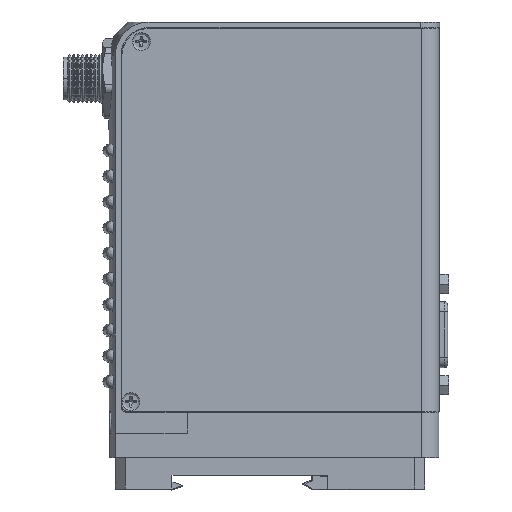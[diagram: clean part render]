
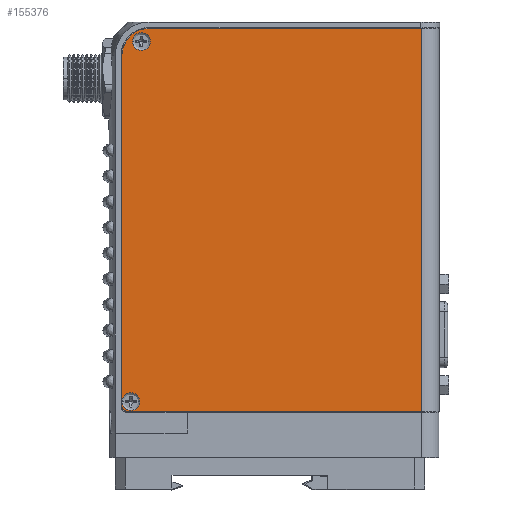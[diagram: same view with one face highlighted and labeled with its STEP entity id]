
A CAD part, top view. The second image highlights one B-rep face of the part: STEP entity #155376.
In plain terms, the highlighted planar face has unit normal (0, 0, 1).
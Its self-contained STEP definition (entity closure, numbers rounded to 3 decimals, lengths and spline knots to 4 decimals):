
#1732 = VERTEX_POINT ( 'NONE', #5637 ) ;
#2185 = LINE ( 'NONE', #16161, #8936 ) ;
#2464 = VECTOR ( 'NONE', #139410, 39.3701 ) ;
#2855 = CARTESIAN_POINT ( 'NONE',  ( -0.0286, 1.931, 3.3427 ) ) ;
#5637 = CARTESIAN_POINT ( 'NONE',  ( 0.0734, 5.435, 3.3427 ) ) ;
#7198 = CARTESIAN_POINT ( 'NONE',  ( 0.1594, 5.435, 3.3427 ) ) ;
#8936 = VECTOR ( 'NONE', #33150, 39.3701 ) ;
#9784 = VERTEX_POINT ( 'NONE', #16976 ) ;
#10167 = EDGE_CURVE ( 'NONE', #51545, #85257, #150644, .T. ) ;
#10926 = LINE ( 'NONE', #149278, #2464 ) ;
#14154 = DIRECTION ( 'NONE',  ( 1., 0., 0. ) ) ;
#16161 = CARTESIAN_POINT ( 'NONE',  ( 2.8884, 1.833, 3.3427 ) ) ;
#16976 = CARTESIAN_POINT ( 'NONE',  ( 0.2454, 5.435, 3.3427 ) ) ;
#17078 = CARTESIAN_POINT ( 'NONE',  ( 0.2394, 5.294, 3.3427 ) ) ;
#19611 = CARTESIAN_POINT ( 'NONE',  ( 0.0574, 1.931, 3.3427 ) ) ;
#19730 = VECTOR ( 'NONE', #23459, 39.3701 ) ;
#21459 = VERTEX_POINT ( 'NONE', #88129 ) ;
#21917 = VERTEX_POINT ( 'NONE', #135888 ) ;
#22211 = DIRECTION ( 'NONE',  ( 0., 0., -1. ) ) ;
#23459 = DIRECTION ( 'NONE',  ( 0., 1., 0. ) ) ;
#25420 = CARTESIAN_POINT ( 'NONE',  ( 0.0324, 1.833, 3.3427 ) ) ;
#26514 = CARTESIAN_POINT ( 'NONE',  ( 0.1594, 5.435, 3.3427 ) ) ;
#32711 = AXIS2_PLACEMENT_3D ( 'NONE', #96378, #22211, #145018 ) ;
#32735 = ORIENTED_EDGE ( 'NONE', *, *, #84903, .F. ) ;
#33150 = DIRECTION ( 'NONE',  ( 0., -1., 0. ) ) ;
#33704 = CIRCLE ( 'NONE', #152145, 0.086 ) ;
#35460 = EDGE_LOOP ( 'NONE', ( #156555, #51926, #70823, #88425, #32735, #47751 ) ) ;
#38532 = DIRECTION ( 'NONE',  ( 0., 0., -1. ) ) ;
#39082 = CIRCLE ( 'NONE', #99488, 0.086 ) ;
#40745 = CARTESIAN_POINT ( 'NONE',  ( -0.0306, 5.294, 3.3427 ) ) ;
#40951 = AXIS2_PLACEMENT_3D ( 'NONE', #76227, #114896, #154403 ) ;
#45178 = DIRECTION ( 'NONE',  ( 0., 0., -1. ) ) ;
#46314 = CIRCLE ( 'NONE', #138400, 0.086 ) ;
#46567 = LINE ( 'NONE', #48992, #19730 ) ;
#47497 = DIRECTION ( 'NONE',  ( 0., 0., -1. ) ) ;
#47751 = ORIENTED_EDGE ( 'NONE', *, *, #52880, .F. ) ;
#48962 = EDGE_CURVE ( 'NONE', #1732, #9784, #33704, .T. ) ;
#48992 = CARTESIAN_POINT ( 'NONE',  ( -0.0306, 1.896, 3.3427 ) ) ;
#49593 = AXIS2_PLACEMENT_3D ( 'NONE', #7198, #47497, #50767 ) ;
#50767 = DIRECTION ( 'NONE',  ( 1., 0., 0. ) ) ;
#51545 = VERTEX_POINT ( 'NONE', #87775 ) ;
#51926 = ORIENTED_EDGE ( 'NONE', *, *, #86721, .F. ) ;
#52880 = EDGE_CURVE ( 'NONE', #137693, #89054, #10926, .T. ) ;
#57484 = DIRECTION ( 'NONE',  ( 1., 0., 0. ) ) ;
#59929 = DIRECTION ( 'NONE',  ( 1., 0., 0. ) ) ;
#62412 = EDGE_LOOP ( 'NONE', ( #111674, #71470 ) ) ;
#65362 = CIRCLE ( 'NONE', #49593, 0.086 ) ;
#70823 = ORIENTED_EDGE ( 'NONE', *, *, #157993, .F. ) ;
#71470 = ORIENTED_EDGE ( 'NONE', *, *, #48962, .T. ) ;
#71581 = CARTESIAN_POINT ( 'NONE',  ( 0.0324, 1.833, 3.3427 ) ) ;
#76227 = CARTESIAN_POINT ( 'NONE',  ( 0.0324, 1.896, 3.3427 ) ) ;
#83231 = FACE_BOUND ( 'NONE', #89992, .T. ) ;
#84903 = EDGE_CURVE ( 'NONE', #89054, #51545, #2185, .T. ) ;
#85257 = VERTEX_POINT ( 'NONE', #71581 ) ;
#85640 = FACE_BOUND ( 'NONE', #62412, .T. ) ;
#86721 = EDGE_CURVE ( 'NONE', #21459, #92935, #46567, .T. ) ;
#87775 = CARTESIAN_POINT ( 'NONE',  ( 2.8884, 1.833, 3.3427 ) ) ;
#88129 = CARTESIAN_POINT ( 'NONE',  ( -0.0306, 1.896, 3.3427 ) ) ;
#88425 = ORIENTED_EDGE ( 'NONE', *, *, #10167, .F. ) ;
#89054 = VERTEX_POINT ( 'NONE', #149205 ) ;
#89333 = EDGE_CURVE ( 'NONE', #21917, #136194, #46314, .T. ) ;
#89992 = EDGE_LOOP ( 'NONE', ( #101734, #102838 ) ) ;
#92935 = VERTEX_POINT ( 'NONE', #40745 ) ;
#94794 = FACE_OUTER_BOUND ( 'NONE', #35460, .T. ) ;
#96378 = CARTESIAN_POINT ( 'NONE',  ( 2.8884, 1.833, 3.3427 ) ) ;
#96714 = EDGE_CURVE ( 'NONE', #9784, #1732, #65362, .T. ) ;
#99488 = AXIS2_PLACEMENT_3D ( 'NONE', #19611, #45178, #59929 ) ;
#101734 = ORIENTED_EDGE ( 'NONE', *, *, #89333, .T. ) ;
#102838 = ORIENTED_EDGE ( 'NONE', *, *, #115600, .T. ) ;
#102846 = DIRECTION ( 'NONE',  ( -1., 0., 0. ) ) ;
#104385 = EDGE_CURVE ( 'NONE', #92935, #137693, #110902, .T. ) ;
#110902 = CIRCLE ( 'NONE', #160873, 0.27 ) ;
#111674 = ORIENTED_EDGE ( 'NONE', *, *, #96714, .T. ) ;
#114896 = DIRECTION ( 'NONE',  ( 0., 0., -1. ) ) ;
#115600 = EDGE_CURVE ( 'NONE', #136194, #21917, #39082, .T. ) ;
#116138 = CARTESIAN_POINT ( 'NONE',  ( 0.2394, 5.564, 3.3427 ) ) ;
#117217 = CIRCLE ( 'NONE', #40951, 0.063 ) ;
#120066 = CARTESIAN_POINT ( 'NONE',  ( 0.0574, 1.931, 3.3427 ) ) ;
#127016 = DIRECTION ( 'NONE',  ( 0., 0., -1. ) ) ;
#129415 = DIRECTION ( 'NONE',  ( 0., 0., -1. ) ) ;
#135888 = CARTESIAN_POINT ( 'NONE',  ( 0.1434, 1.931, 3.3427 ) ) ;
#136194 = VERTEX_POINT ( 'NONE', #2855 ) ;
#137693 = VERTEX_POINT ( 'NONE', #116138 ) ;
#138299 = VECTOR ( 'NONE', #102846, 39.3701 ) ;
#138400 = AXIS2_PLACEMENT_3D ( 'NONE', #120066, #129415, #57484 ) ;
#139410 = DIRECTION ( 'NONE',  ( 1., 0., 0. ) ) ;
#145018 = DIRECTION ( 'NONE',  ( -1., 0., 0. ) ) ;
#148235 = PLANE ( 'NONE',  #32711 ) ;
#149205 = CARTESIAN_POINT ( 'NONE',  ( 2.8884, 5.564, 3.3427 ) ) ;
#149278 = CARTESIAN_POINT ( 'NONE',  ( 0.2394, 5.564, 3.3427 ) ) ;
#150644 = LINE ( 'NONE', #25420, #138299 ) ;
#152145 = AXIS2_PLACEMENT_3D ( 'NONE', #26514, #127016, #14154 ) ;
#153819 = DIRECTION ( 'NONE',  ( 0., 1., 0. ) ) ;
#154403 = DIRECTION ( 'NONE',  ( 1., 0., 0. ) ) ;
#155376 = ADVANCED_FACE ( 'NONE', ( #94794, #83231, #85640 ), #148235, .F. ) ;
#156555 = ORIENTED_EDGE ( 'NONE', *, *, #104385, .F. ) ;
#157993 = EDGE_CURVE ( 'NONE', #85257, #21459, #117217, .T. ) ;
#160873 = AXIS2_PLACEMENT_3D ( 'NONE', #17078, #38532, #153819 ) ;
